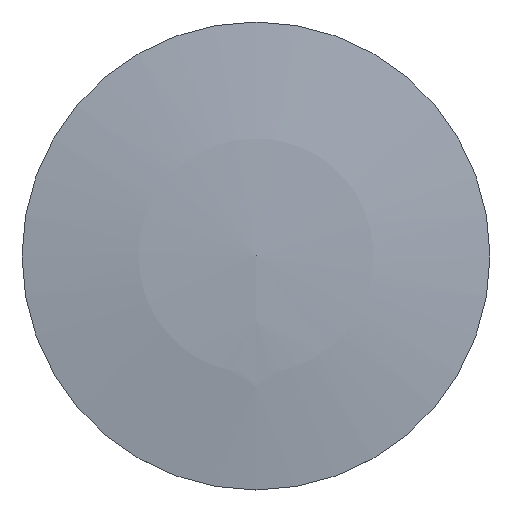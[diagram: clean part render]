
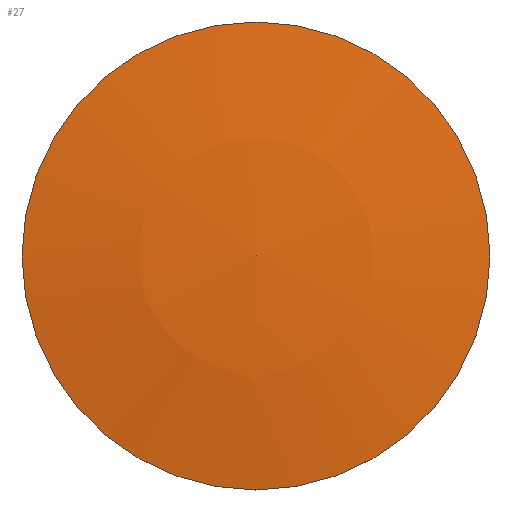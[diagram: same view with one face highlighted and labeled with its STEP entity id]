
A CAD part, top view. The second image highlights one B-rep face of the part: STEP entity #27.
In plain terms, the highlighted spherical face has radius 1856 mm.
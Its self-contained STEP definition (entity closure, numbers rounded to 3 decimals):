
#27 = ADVANCED_FACE( '', ( #50, #51 ), #52, .T. );
#50 = FACE_BOUND( '', #69, .T. );
#51 = FACE_OUTER_BOUND( '', #70, .T. );
#52 = SPHERICAL_SURFACE( '', #71, 1856. );
#69 = VERTEX_LOOP( '', #82 );
#70 = EDGE_LOOP( '', ( #83 ) );
#71 = AXIS2_PLACEMENT_3D( '', #84, #85, #86 );
#82 = VERTEX_POINT( '', #100 );
#83 = ORIENTED_EDGE( '', *, *, #101, .T. );
#84 = CARTESIAN_POINT( '', ( 0., 0., -1825. ) );
#85 = DIRECTION( '', ( 0., 0., 1. ) );
#86 = DIRECTION( '', ( 0., -1., 0. ) );
#100 = CARTESIAN_POINT( '', ( 0., 0., 31. ) );
#101 = EDGE_CURVE( '', #107, #107, #108, .T. );
#107 = VERTEX_POINT( '', #114 );
#108 = CIRCLE( '', #115, 310. );
#114 = CARTESIAN_POINT( '', ( 310., 0., 4.928 ) );
#115 = AXIS2_PLACEMENT_3D( '', #120, #121, #122 );
#120 = CARTESIAN_POINT( '', ( 0., 0., 4.928 ) );
#121 = DIRECTION( '', ( 0., 0., 1. ) );
#122 = DIRECTION( '', ( 1., 0., 0. ) );
